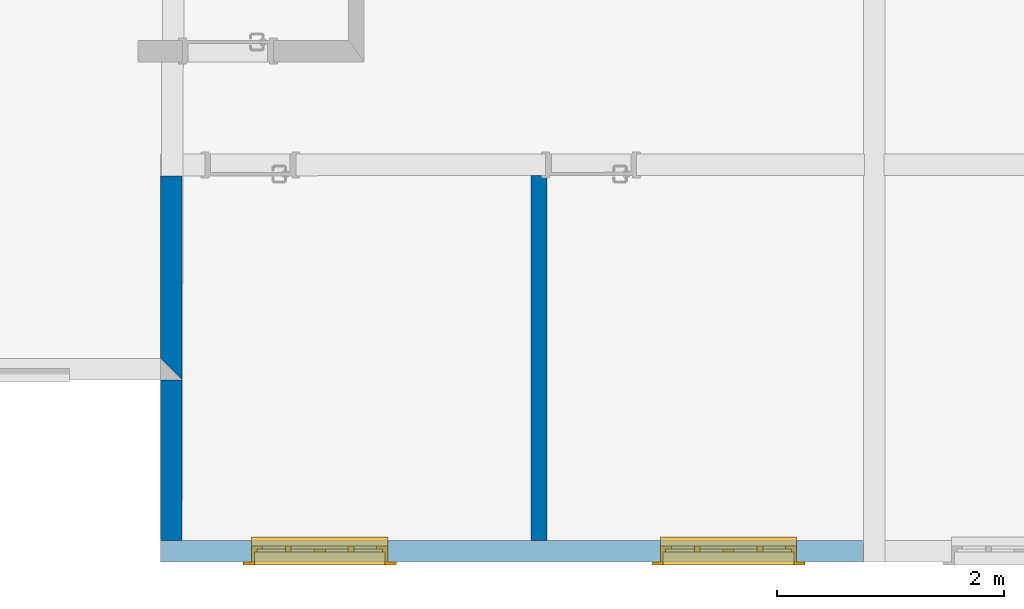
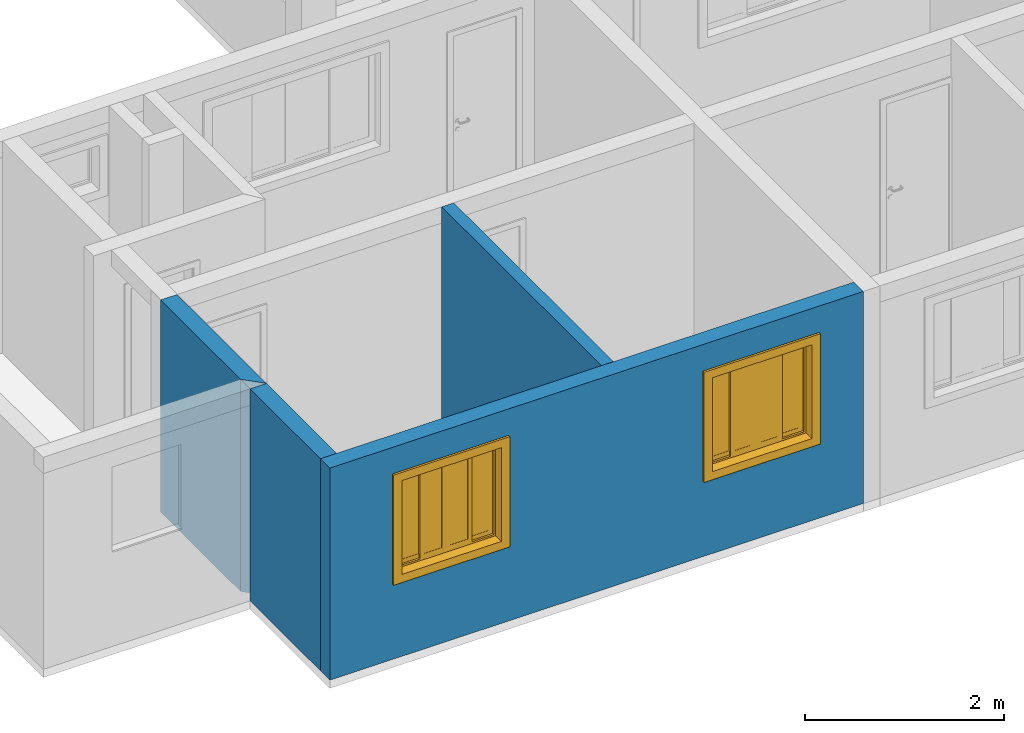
# One storey, part 4 of 43: 4 walls, 2 windows, 2 openings.
"""IFC2X3 building model written with IfcOpenShell, lengths in millimetres."""

from ifc_helpers import new_model, entity, si_unit, converted_unit, derived_unit, money_unit, direction, frame, origin_with_axes, origin_2d_with_axis, place, context, subcontext, project, spatial, polyline, rectangle, outline, extrude, open_shell, faceted_brep, surface_model, source, transform, mapped, material, layer, layer_set, layer_usage, type_object, element, fill, save


model = new_model("IFC2X3")

# Units and contexts
model_context = context("Model", 3, precision=0.01, world=origin_with_axes(), true_north=direction((0.0, 1.0)))
body_context = subcontext(model_context, "Body", "Model", "MODEL_VIEW")
ifc_project = project(units=[si_unit("LENGTHUNIT", "METRE", prefix="MILLI"), si_unit("AREAUNIT", "SQUARE_METRE"), si_unit("VOLUMEUNIT", "CUBIC_METRE"), converted_unit("PLANEANGLEUNIT", "DEGREE", entity("IfcPlaneAngleMeasure", 0.0174532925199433), si_unit("PLANEANGLEUNIT", "RADIAN"), dimensions=[0, 0, 0, 0, 0, 0, 0]), money_unit("USD"), converted_unit("TIMEUNIT", "Year", entity("IfcTimeMeasure", 31557600.0), si_unit("TIMEUNIT", "SECOND"), dimensions=[0, 0, 1, 0, 0, 0, 0]), si_unit("MASSUNIT", "GRAM", prefix="KILO"), si_unit("THERMODYNAMICTEMPERATUREUNIT", "DEGREE_CELSIUS"), si_unit("LUMINOUSINTENSITYUNIT", "LUMEN"), si_unit("ENERGYUNIT", "JOULE", prefix="MEGA"), derived_unit("THERMALCONDUCTANCEUNIT", [(si_unit("POWERUNIT", "WATT"), 1), (si_unit("LENGTHUNIT", "METRE"), -1), (si_unit("THERMODYNAMICTEMPERATUREUNIT", "KELVIN"), -1)]), derived_unit("SPECIFICHEATCAPACITYUNIT", [(si_unit("ENERGYUNIT", "JOULE"), 1), (si_unit("MASSUNIT", "GRAM", prefix="KILO"), -1), (si_unit("THERMODYNAMICTEMPERATUREUNIT", "KELVIN"), -1)]), derived_unit("MASSDENSITYUNIT", [(si_unit("MASSUNIT", "GRAM", prefix="KILO"), 1), (si_unit("VOLUMEUNIT", "CUBIC_METRE"), -1)])], contexts=[model_context])

# Site, building, storey
site_placement = place(None, origin_with_axes())
site = spatial("IfcSite", under=ifc_project, at=site_placement, Name="Local", CompositionType="ELEMENT")
building_placement = place(site_placement, origin_with_axes())
building = spatial("IfcBuilding", under=site, at=building_placement, Name="Construção", CompositionType="ELEMENT")
storey_placement = place(building_placement, origin_with_axes())
storey = spatial("IfcBuildingStorey", under=building, at=storey_placement, Name="Pavimento Tipo", CompositionType="ELEMENT", Elevation=0.0)

# Wall, openings, windows
ifc_material_1 = material(Name="Concreto - Estrutural")
ifc_layer_1 = layer(ifc_material_1, 190.0, ventilated="UNKNOWN")
ifc_layer_set_1 = layer_set([ifc_layer_1], Name="Concreto - Estrutural 190")
ifc_layer_usage_1 = layer_usage(ifc_layer_set_1, "AXIS2", "NEGATIVE", 0.0)
wall_type_1 = type_object("IfcWallType", Name="Concreto - Estrutural 190", PredefinedType="NOTDEFINED")
wall_1_placement = place(storey_placement, frame((57514.86531294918, -8170.441911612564, 0.0), z_axis=(0.0, 0.0, 1.0), x_axis=(1.0, 0.0, 0.0)))
wall_1 = element("IfcWallStandardCase", 1, at=wall_1_placement, inside=storey, type_object=wall_type_1, material=ifc_layer_usage_1, Name="Apartamento 3 - Parede-005", context=body_context, shape_type="SweptSolid", body=[
    extrude(outline(polyline([(0.0, -189.9999999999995), (6187.334418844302, -189.9999999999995), (6187.334418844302, 0.0), (0.0, 0.0), (0.0, -189.9999999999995)])), origin_with_axes(), (0.0, 0.0, 1.0), 2600.0),
])
opening_1_placement = place(wall_1_placement, frame((4999.999999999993, 0.0, 1000.0), z_axis=(0.0, 0.0, 1.0), x_axis=(1.0, 0.0, 0.0)))
opening_1 = element("IfcOpeningElement", 2, at=opening_1_placement, cuts=wall_1, Name="Apartamento 3 - J06", context=body_context, shape_type="SweptSolid", body=[
    extrude(rectangle(XDim=1200.000000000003, YDim=1200.0, at=origin_2d_with_axis()), frame((0.0, -49.99999999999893, 600.0000000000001), z_axis=(0.0, 1.0, 0.0), x_axis=(-1.0, 0.0, 0.0)), (0.0, 0.0, -1.0), 330.0),
    extrude(rectangle(XDim=1200.000000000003, YDim=1200.0, at=origin_2d_with_axis()), frame((0.0, -50.00000000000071, 600.0000000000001), z_axis=(0.0, -1.0, 0.0), x_axis=(-1.0, 0.0, 0.0)), (0.0, 0.0, -1.0), 240.0),
    extrude(rectangle(XDim=1349.999999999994, YDim=1350.0, at=origin_2d_with_axis()), frame((0.0, -189.9999999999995, 600.0000000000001), z_axis=(0.0, 1.0, 0.0), x_axis=(-1.0, 0.0, 0.0)), (0.0, 0.0, -1.0), 240.0),
])
opening_2_placement = place(wall_1_placement, frame((1399.999999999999, 0.0, 1000.0), z_axis=(0.0, 0.0, 1.0), x_axis=(1.0, 0.0, 0.0)))
opening_2 = element("IfcOpeningElement", 3, at=opening_2_placement, cuts=wall_1, Name="Apartamento 3 - J05", context=body_context, shape_type="SweptSolid", body=[
    extrude(rectangle(XDim=1200.000000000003, YDim=1200.0, at=origin_2d_with_axis()), frame((0.0, -49.99999999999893, 600.0000000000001), z_axis=(0.0, 1.0, 0.0), x_axis=(-1.0, 0.0, 0.0)), (0.0, 0.0, -1.0), 330.0),
    extrude(rectangle(XDim=1200.000000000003, YDim=1200.0, at=origin_2d_with_axis()), frame((0.0, -50.00000000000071, 600.0000000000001), z_axis=(0.0, -1.0, 0.0), x_axis=(-1.0, 0.0, 0.0)), (0.0, 0.0, -1.0), 240.0),
    extrude(rectangle(XDim=1349.999999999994, YDim=1350.0, at=origin_2d_with_axis()), frame((0.0, -189.9999999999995, 600.0000000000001), z_axis=(0.0, 1.0, 0.0), x_axis=(-1.0, 0.0, 0.0)), (0.0, 0.0, -1.0), 240.0),
])
window_style = type_object("IfcWindowStyle", Name="Janela de Correr 4-Folhas 27", ConstructionType="NOTDEFINED", OperationType="USERDEFINED", ParameterTakesPrecedence=False, Sizeable=False)
shared_shape = source(origin_with_axes(), body_context, "Body", "SurfaceModel", [
    faceted_brep([(-600.0, -50.0, 4.999999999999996), (-600.0, -100.0, 4.999999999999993), (-600.0, -100.0, 27.37961103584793), (-600.0, -50.0, 30.0), (600.0, -50.0, 4.999999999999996), (600.0, -100.0, 4.999999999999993), (600.0, -130.0, 4.999999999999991), (-600.0, -130.0, 4.999999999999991), (-600.0, -130.0, 25.80737765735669), (600.0, -130.0, 25.80737765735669), (600.0, -100.0, 27.37961103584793), (600.0, -50.0, 30.0)], [[[0, 1, 2, 3]], [[0, 4, 5, 6, 7, 1]], [[1, 7, 8, 2]], [[3, 2, 8, 9, 10, 11]], [[4, 0, 3, 11]], [[5, 4, 11, 10]], [[6, 5, 10, 9]], [[7, 6, 9, 8]]]),
    faceted_brep([(-600.0, -50.0, 0.0), (-600.0, -100.0, 0.0), (-600.0, -100.0, 4.999999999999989), (-600.0, -50.0, 4.999999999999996), (600.0, -50.0, 0.0), (600.0, -100.0, 0.0), (600.0, -100.0, 4.999999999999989), (600.0, -50.0, 4.999999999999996)], [[[0, 1, 2, 3]], [[0, 4, 5, 1]], [[1, 5, 6, 2]], [[3, 2, 6, 7]], [[4, 0, 3, 7]], [[5, 4, 7, 6]]]),
    faceted_brep([(-600.0, 0.0, 0.0), (-600.0, 90.00000000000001, 0.0), (600.0, 90.00000000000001, 0.0), (600.0, 0.0, 0.0), (-600.0, 0.0, 1200.0), (-600.0, 90.00000000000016, 1200.0), (600.0, 90.00000000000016, 1200.0), (-575.0, 90.00000000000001, 24.99999999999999), (575.0, 90.00000000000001, 24.99999999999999), (575.0, 90.00000000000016, 1175.0), (-575.0, 90.00000000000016, 1175.0), (600.0, 0.0, 1200.0), (-575.0, 0.0, 24.99999999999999), (-575.0, 0.0, 1175.0), (575.0, 0.0, 1175.0), (575.0, 0.0, 24.99999999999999)], [[[0, 1, 2, 3]], [[4, 5, 1, 0]], [[1, 5, 6, 2], [7, 8, 9, 10]], [[3, 2, 6, 11]], [[0, 3, 11, 4], [12, 13, 14, 15]], [[11, 6, 5, 4]], [[15, 8, 7, 12]], [[14, 9, 8, 15]], [[13, 10, 9, 14]], [[12, 7, 10, 13]]]),
    faceted_brep([(-674.9999999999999, 115.0, -75.00000000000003), (-575.0, 115.0, 24.99999999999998), (-575.0, 90.00000000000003, 24.99999999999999), (-674.9999999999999, 90.00000000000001, -75.00000000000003), (-674.9999999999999, 115.0000000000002, 1275.0), (-575.0, 115.0000000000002, 1175.0), (-575.0, 90.00000000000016, 1175.0), (-674.9999999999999, 90.00000000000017, 1275.0)], [[[0, 1, 2, 3]], [[0, 4, 5, 1]], [[1, 5, 6, 2]], [[3, 2, 6, 7]], [[4, 0, 3, 7]], [[5, 4, 7, 6]]]),
    faceted_brep([(674.9999999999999, 115.0000000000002, 1275.0), (575.0, 115.0000000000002, 1175.0), (575.0, 90.00000000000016, 1175.0), (674.9999999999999, 90.00000000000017, 1275.0), (674.9999999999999, 115.0, -75.00000000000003), (575.0, 115.0, 24.99999999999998), (575.0, 90.00000000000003, 24.99999999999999), (674.9999999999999, 90.00000000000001, -75.00000000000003)], [[[0, 1, 2, 3]], [[0, 4, 5, 1]], [[1, 5, 6, 2]], [[3, 2, 6, 7]], [[4, 0, 3, 7]], [[5, 4, 7, 6]]]),
    faceted_brep([(674.9999999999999, 115.0, -75.00000000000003), (575.0, 115.0, 24.99999999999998), (575.0, 90.00000000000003, 24.99999999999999), (674.9999999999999, 90.00000000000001, -75.00000000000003), (-674.9999999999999, 115.0, -75.00000000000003), (-575.0, 115.0, 24.99999999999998), (-575.0, 90.00000000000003, 24.99999999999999), (-674.9999999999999, 90.00000000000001, -75.00000000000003)], [[[0, 1, 2, 3]], [[0, 4, 5, 1]], [[1, 5, 6, 2]], [[3, 2, 6, 7]], [[4, 0, 3, 7]], [[5, 4, 7, 6]]]),
    faceted_brep([(-674.9999999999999, 115.0000000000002, 1275.0), (-575.0, 115.0000000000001, 1175.0), (-575.0, 90.00000000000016, 1175.0), (-674.9999999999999, 90.00000000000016, 1275.0), (674.9999999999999, 115.0000000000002, 1275.0), (575.0, 115.0000000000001, 1175.0), (575.0, 90.00000000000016, 1175.0), (674.9999999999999, 90.00000000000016, 1275.0)], [[[0, 1, 2, 3]], [[0, 4, 5, 1]], [[1, 5, 6, 2]], [[3, 2, 6, 7]], [[4, 0, 3, 7]], [[5, 4, 7, 6]]]),
    faceted_brep([(-552.9999999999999, -50.00000000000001, 47.0), (-552.9999999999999, 0.0, 47.00000000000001), (-552.9999999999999, 0.0, 1153.0), (-552.9999999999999, -50.00000000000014, 1153.0), (-600.0, -50.00000000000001, 47.0), (-600.0, 0.0, 47.00000000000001), (-600.0, 0.0, 1153.0), (-600.0, -50.00000000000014, 1153.0)], [[[0, 1, 2, 3]], [[4, 5, 1, 0]], [[1, 5, 6, 2]], [[3, 2, 6, 7]], [[0, 3, 7, 4]], [[7, 6, 5, 4]]]),
    faceted_brep([(600.0, -50.00000000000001, 47.0), (600.0, 0.0, 47.00000000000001), (600.0, 0.0, 1153.0), (600.0, -50.00000000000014, 1153.0), (552.9999999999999, -50.00000000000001, 47.0), (552.9999999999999, 0.0, 47.00000000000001), (552.9999999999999, 0.0, 1153.0), (552.9999999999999, -50.00000000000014, 1153.0)], [[[0, 1, 2, 3]], [[4, 5, 1, 0]], [[1, 5, 6, 2]], [[3, 2, 6, 7]], [[0, 3, 7, 4]], [[7, 6, 5, 4]]]),
    faceted_brep([(600.0, -50.00000000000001, 47.0), (600.0, 0.0, 47.00000000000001), (552.9999999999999, 0.0, 47.00000000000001), (552.9999999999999, -50.00000000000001, 47.0), (600.0, -50.0, 0.0), (600.0, 0.0, 0.0), (-600.0, 0.0, 0.0), (-600.0, 0.0, 47.00000000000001), (-552.9999999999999, 0.0, 47.00000000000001), (-552.9999999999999, -50.00000000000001, 47.0), (-600.0, -50.00000000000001, 47.0), (-600.0, -50.0, 0.0)], [[[0, 1, 2, 3]], [[4, 5, 1, 0]], [[1, 5, 6, 7, 8, 2]], [[3, 2, 8, 9]], [[0, 3, 9, 10, 11, 4]], [[11, 6, 5, 4]], [[10, 7, 6, 11]], [[9, 8, 7, 10]]]),
    faceted_brep([(600.0, -50.00000000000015, 1200.0), (600.0, 0.0, 1200.0), (-600.0, 0.0, 1200.0), (-600.0, -50.00000000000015, 1200.0), (600.0, -50.00000000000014, 1153.0), (600.0, 0.0, 1153.0), (552.9999999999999, 0.0, 1153.0), (276.5, 0.0, 1153.0), (0.0, 0.0, 1153.0), (-276.4999999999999, 0.0, 1153.0), (-552.9999999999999, 0.0, 1153.0), (-600.0, 0.0, 1153.0), (-600.0, -50.00000000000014, 1153.0), (-552.9999999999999, -50.00000000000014, 1153.0), (-276.4999999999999, -50.00000000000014, 1153.0), (0.0, -50.00000000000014, 1153.0), (276.5, -50.00000000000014, 1153.0), (552.9999999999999, -50.00000000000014, 1153.0)], [[[0, 1, 2, 3]], [[4, 5, 1, 0]], [[1, 5, 6, 7, 8, 9, 10, 11, 2]], [[3, 2, 11, 12]], [[0, 3, 12, 13, 14, 15, 16, 17, 4]], [[17, 6, 5, 4]], [[16, 7, 6, 17]], [[15, 8, 7, 16]], [[14, 9, 8, 15]], [[13, 10, 9, 14]], [[12, 11, 10, 13]]]),
    faceted_brep([(-502.9999999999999, -50.00000000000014, 1103.0), (-502.9999999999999, -25.00000000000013, 1103.0), (-552.9999999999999, -25.00000000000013, 1103.0), (-552.9999999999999, -50.00000000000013, 1103.0), (-502.9999999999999, -50.00000000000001, 97.0), (-502.9999999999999, -25.00000000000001, 97.0), (-552.9999999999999, -25.0, 97.0), (-552.9999999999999, -50.00000000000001, 97.0)], [[[0, 1, 2, 3]], [[4, 5, 1, 0]], [[1, 5, 6, 2]], [[3, 2, 6, 7]], [[0, 3, 7, 4]], [[7, 6, 5, 4]]]),
    faceted_brep([(-301.4999999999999, -50.00000000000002, 97.0), (-301.4999999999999, -25.00000000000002, 97.0), (-251.4999999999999, -25.00000000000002, 97.0), (-251.4999999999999, -50.00000000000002, 97.0), (-301.4999999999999, -50.00000000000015, 1103.0), (-301.4999999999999, -25.00000000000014, 1103.0), (-251.4999999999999, -25.00000000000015, 1103.0), (-251.4999999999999, -50.00000000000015, 1103.0)], [[[0, 1, 2, 3]], [[4, 5, 1, 0]], [[1, 5, 6, 2]], [[3, 2, 6, 7]], [[0, 3, 7, 4]], [[7, 6, 5, 4]]]),
    faceted_brep([(-251.4999999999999, -50.00000000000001, 47.0), (-251.4999999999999, -25.00000000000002, 47.0), (-251.4999999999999, -25.00000000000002, 97.0), (-251.4999999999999, -50.00000000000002, 97.0), (-552.9999999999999, -50.0, 47.0), (-552.9999999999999, -25.0, 47.0), (-552.9999999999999, -25.0, 97.0), (-502.9999999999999, -25.00000000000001, 97.0), (-301.4999999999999, -25.00000000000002, 97.0), (-301.4999999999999, -50.00000000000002, 97.0), (-502.9999999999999, -50.00000000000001, 97.0), (-552.9999999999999, -50.00000000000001, 97.0)], [[[0, 1, 2, 3]], [[4, 5, 1, 0]], [[1, 5, 6, 7, 8, 2]], [[3, 2, 8, 9]], [[0, 3, 9, 10, 11, 4]], [[11, 6, 5, 4]], [[10, 7, 6, 11]], [[9, 8, 7, 10]]]),
    faceted_brep([(-552.9999999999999, -50.00000000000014, 1153.0), (-552.9999999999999, -25.00000000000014, 1153.0), (-552.9999999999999, -25.00000000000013, 1103.0), (-552.9999999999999, -50.00000000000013, 1103.0), (-251.4999999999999, -50.00000000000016, 1153.0), (-251.4999999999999, -25.00000000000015, 1153.0), (-251.4999999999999, -25.00000000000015, 1103.0), (-301.4999999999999, -25.00000000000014, 1103.0), (-502.9999999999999, -25.00000000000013, 1103.0), (-502.9999999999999, -50.00000000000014, 1103.0), (-301.4999999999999, -50.00000000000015, 1103.0), (-251.4999999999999, -50.00000000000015, 1103.0)], [[[0, 1, 2, 3]], [[4, 5, 1, 0]], [[1, 5, 6, 7, 8, 2]], [[3, 2, 8, 9]], [[0, 3, 9, 10, 11, 4]], [[11, 6, 5, 4]], [[10, 7, 6, 11]], [[9, 8, 7, 10]]]),
    surface_model("IfcShellBasedSurfaceModel", [(-502.9999999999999, -47.50000000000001, 97.0), (-301.4999999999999, -47.50000000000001, 97.0), (-301.4999999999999, -47.50000000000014, 1103.0), (-502.9999999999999, -47.50000000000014, 1103.0)], [open_shell([[[0, 1, 2, 3]]])]),
    surface_model("IfcShellBasedSurfaceModel", [(-502.9999999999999, -27.50000000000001, 97.0), (-502.9999999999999, -27.50000000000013, 1103.0), (-301.4999999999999, -27.50000000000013, 1103.0), (-301.4999999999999, -27.50000000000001, 97.0)], [open_shell([[[0, 1, 2, 3]]])]),
    faceted_brep([(-251.4999999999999, -25.00000000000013, 1103.0), (-251.4999999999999, 0.0, 1103.0), (-301.4999999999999, 0.0, 1103.0), (-301.4999999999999, -25.00000000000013, 1103.0), (-251.4999999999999, -25.00000000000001, 97.0), (-251.4999999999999, 0.0, 97.0), (-301.4999999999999, 0.0, 97.0), (-301.4999999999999, -25.0, 97.0)], [[[0, 1, 2, 3]], [[4, 5, 1, 0]], [[1, 5, 6, 2]], [[3, 2, 6, 7]], [[0, 3, 7, 4]], [[7, 6, 5, 4]]]),
    faceted_brep([(-49.99999999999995, -25.00000000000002, 97.0), (-49.99999999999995, 0.0, 97.0), (0.0, 0.0, 97.0), (0.0, -25.00000000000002, 97.0), (-49.99999999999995, -25.00000000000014, 1103.0), (-49.99999999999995, 0.0, 1103.0), (0.0, 0.0, 1103.0), (0.0, -25.00000000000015, 1103.0)], [[[0, 1, 2, 3]], [[4, 5, 1, 0]], [[1, 5, 6, 2]], [[3, 2, 6, 7]], [[0, 3, 7, 4]], [[7, 6, 5, 4]]]),
    faceted_brep([(0.0, -25.00000000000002, 47.0), (0.0, 0.0, 47.0), (0.0, 0.0, 97.0), (0.0, -25.00000000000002, 97.0), (-301.4999999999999, -25.0, 47.0), (-301.4999999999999, 0.0, 47.0), (-301.4999999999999, 0.0, 97.0), (-251.4999999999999, 0.0, 97.0), (-49.99999999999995, 0.0, 97.0), (-49.99999999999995, -25.00000000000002, 97.0), (-251.4999999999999, -25.00000000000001, 97.0), (-301.4999999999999, -25.0, 97.0)], [[[0, 1, 2, 3]], [[4, 5, 1, 0]], [[1, 5, 6, 7, 8, 2]], [[3, 2, 8, 9]], [[0, 3, 9, 10, 11, 4]], [[11, 6, 5, 4]], [[10, 7, 6, 11]], [[9, 8, 7, 10]]]),
    faceted_brep([(-301.4999999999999, -25.00000000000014, 1153.0), (-301.4999999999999, 0.0, 1153.0), (-301.4999999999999, 0.0, 1103.0), (-301.4999999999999, -25.00000000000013, 1103.0), (0.0, -25.00000000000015, 1153.0), (0.0, 0.0, 1153.0), (0.0, 0.0, 1103.0), (-49.99999999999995, 0.0, 1103.0), (-251.4999999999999, 0.0, 1103.0), (-251.4999999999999, -25.00000000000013, 1103.0), (-49.99999999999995, -25.00000000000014, 1103.0), (0.0, -25.00000000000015, 1103.0)], [[[0, 1, 2, 3]], [[4, 5, 1, 0]], [[1, 5, 6, 7, 8, 2]], [[3, 2, 8, 9]], [[0, 3, 9, 10, 11, 4]], [[11, 6, 5, 4]], [[10, 7, 6, 11]], [[9, 8, 7, 10]]]),
    surface_model("IfcShellBasedSurfaceModel", [(-251.4999999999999, -22.50000000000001, 97.0), (-49.99999999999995, -22.50000000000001, 97.0), (-49.99999999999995, -22.50000000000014, 1103.0), (-251.4999999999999, -22.50000000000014, 1103.0)], [open_shell([[[0, 1, 2, 3]]])]),
    surface_model("IfcShellBasedSurfaceModel", [(-251.4999999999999, -2.500000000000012, 97.0), (-251.4999999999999, -2.500000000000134, 1103.0), (-49.99999999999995, -2.500000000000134, 1103.0), (-49.99999999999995, -2.500000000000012, 97.0)], [open_shell([[[0, 1, 2, 3]]])]),
    faceted_brep([(50.00000000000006, -25.00000000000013, 1103.0), (50.00000000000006, 0.0, 1103.0), (0.0, 0.0, 1103.0), (0.0, -25.00000000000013, 1103.0), (50.00000000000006, -25.00000000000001, 97.0), (50.00000000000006, 0.0, 97.0), (0.0, 0.0, 97.0), (0.0, -25.0, 97.0)], [[[0, 1, 2, 3]], [[4, 5, 1, 0]], [[1, 5, 6, 2]], [[3, 2, 6, 7]], [[0, 3, 7, 4]], [[7, 6, 5, 4]]]),
    faceted_brep([(251.5000000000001, -25.00000000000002, 97.0), (251.5000000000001, 0.0, 97.0), (301.5000000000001, 0.0, 97.0), (301.5000000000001, -25.00000000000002, 97.0), (251.5000000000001, -25.00000000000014, 1103.0), (251.5000000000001, 0.0, 1103.0), (301.5000000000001, 0.0, 1103.0), (301.5000000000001, -25.00000000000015, 1103.0)], [[[0, 1, 2, 3]], [[4, 5, 1, 0]], [[1, 5, 6, 2]], [[3, 2, 6, 7]], [[0, 3, 7, 4]], [[7, 6, 5, 4]]]),
    faceted_brep([(301.5000000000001, -25.00000000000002, 47.0), (301.5000000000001, 0.0, 47.0), (301.5000000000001, 0.0, 97.0), (301.5000000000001, -25.00000000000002, 97.0), (0.0, -25.0, 47.0), (0.0, 0.0, 47.0), (0.0, 0.0, 97.0), (50.00000000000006, 0.0, 97.0), (251.5000000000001, 0.0, 97.0), (251.5000000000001, -25.00000000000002, 97.0), (50.00000000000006, -25.00000000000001, 97.0), (0.0, -25.0, 97.0)], [[[0, 1, 2, 3]], [[4, 5, 1, 0]], [[1, 5, 6, 7, 8, 2]], [[3, 2, 8, 9]], [[0, 3, 9, 10, 11, 4]], [[11, 6, 5, 4]], [[10, 7, 6, 11]], [[9, 8, 7, 10]]]),
    faceted_brep([(0.0, -25.00000000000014, 1153.0), (0.0, 0.0, 1153.0), (0.0, 0.0, 1103.0), (0.0, -25.00000000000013, 1103.0), (301.5000000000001, -25.00000000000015, 1153.0), (301.5000000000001, 0.0, 1153.0), (301.5000000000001, 0.0, 1103.0), (251.5000000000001, 0.0, 1103.0), (50.00000000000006, 0.0, 1103.0), (50.00000000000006, -25.00000000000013, 1103.0), (251.5000000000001, -25.00000000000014, 1103.0), (301.5000000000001, -25.00000000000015, 1103.0)], [[[0, 1, 2, 3]], [[4, 5, 1, 0]], [[1, 5, 6, 7, 8, 2]], [[3, 2, 8, 9]], [[0, 3, 9, 10, 11, 4]], [[11, 6, 5, 4]], [[10, 7, 6, 11]], [[9, 8, 7, 10]]]),
    surface_model("IfcShellBasedSurfaceModel", [(50.00000000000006, -22.50000000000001, 97.0), (251.5000000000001, -22.50000000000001, 97.0), (251.5000000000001, -22.50000000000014, 1103.0), (50.00000000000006, -22.50000000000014, 1103.0)], [open_shell([[[0, 1, 2, 3]]])]),
    surface_model("IfcShellBasedSurfaceModel", [(50.00000000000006, -2.500000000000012, 97.0), (50.00000000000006, -2.500000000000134, 1103.0), (251.5000000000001, -2.500000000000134, 1103.0), (251.5000000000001, -2.500000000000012, 97.0)], [open_shell([[[0, 1, 2, 3]]])]),
    faceted_brep([(301.5000000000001, -50.00000000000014, 1103.0), (301.5000000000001, -25.00000000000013, 1103.0), (251.5000000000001, -25.00000000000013, 1103.0), (251.5000000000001, -50.00000000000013, 1103.0), (301.5000000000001, -50.00000000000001, 97.0), (301.5000000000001, -25.00000000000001, 97.0), (251.5000000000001, -25.0, 97.0), (251.5000000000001, -50.00000000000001, 97.0)], [[[0, 1, 2, 3]], [[4, 5, 1, 0]], [[1, 5, 6, 2]], [[3, 2, 6, 7]], [[0, 3, 7, 4]], [[7, 6, 5, 4]]]),
    faceted_brep([(503.0, -50.00000000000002, 97.0), (503.0, -25.00000000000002, 97.0), (553.0, -25.00000000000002, 97.0), (553.0, -50.00000000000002, 97.0), (503.0, -50.00000000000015, 1103.0), (503.0, -25.00000000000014, 1103.0), (553.0, -25.00000000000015, 1103.0), (553.0, -50.00000000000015, 1103.0)], [[[0, 1, 2, 3]], [[4, 5, 1, 0]], [[1, 5, 6, 2]], [[3, 2, 6, 7]], [[0, 3, 7, 4]], [[7, 6, 5, 4]]]),
    faceted_brep([(553.0, -50.00000000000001, 47.0), (553.0, -25.00000000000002, 47.0), (553.0, -25.00000000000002, 97.0), (553.0, -50.00000000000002, 97.0), (251.5000000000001, -50.0, 47.0), (251.5000000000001, -25.0, 47.0), (251.5000000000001, -25.0, 97.0), (301.5000000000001, -25.00000000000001, 97.0), (503.0, -25.00000000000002, 97.0), (503.0, -50.00000000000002, 97.0), (301.5000000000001, -50.00000000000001, 97.0), (251.5000000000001, -50.00000000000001, 97.0)], [[[0, 1, 2, 3]], [[4, 5, 1, 0]], [[1, 5, 6, 7, 8, 2]], [[3, 2, 8, 9]], [[0, 3, 9, 10, 11, 4]], [[11, 6, 5, 4]], [[10, 7, 6, 11]], [[9, 8, 7, 10]]]),
    faceted_brep([(251.5000000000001, -50.00000000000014, 1153.0), (251.5000000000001, -25.00000000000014, 1153.0), (251.5000000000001, -25.00000000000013, 1103.0), (251.5000000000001, -50.00000000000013, 1103.0), (553.0, -50.00000000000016, 1153.0), (553.0, -25.00000000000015, 1153.0), (553.0, -25.00000000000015, 1103.0), (503.0, -25.00000000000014, 1103.0), (301.5000000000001, -25.00000000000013, 1103.0), (301.5000000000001, -50.00000000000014, 1103.0), (503.0, -50.00000000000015, 1103.0), (553.0, -50.00000000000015, 1103.0)], [[[0, 1, 2, 3]], [[4, 5, 1, 0]], [[1, 5, 6, 7, 8, 2]], [[3, 2, 8, 9]], [[0, 3, 9, 10, 11, 4]], [[11, 6, 5, 4]], [[10, 7, 6, 11]], [[9, 8, 7, 10]]]),
    surface_model("IfcShellBasedSurfaceModel", [(301.5, -47.50000000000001, 97.0), (503.0, -47.50000000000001, 97.0), (503.0, -47.50000000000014, 1103.0), (301.5, -47.50000000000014, 1103.0)], [open_shell([[[0, 1, 2, 3]]])]),
    surface_model("IfcShellBasedSurfaceModel", [(301.5, -27.50000000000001, 97.0), (301.5, -27.50000000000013, 1103.0), (503.0, -27.50000000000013, 1103.0), (503.0, -27.50000000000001, 97.0)], [open_shell([[[0, 1, 2, 3]]])]),
])
window_1_placement = place(opening_2_placement, frame((600.0000000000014, 0.0, 0.0), z_axis=(0.0, 0.0, 1.0), x_axis=(-1.0, 0.0, 0.0)))
window_1 = element("IfcWindow", 4, at=window_1_placement, inside=storey, type_object=window_style, Name="Apartamento 3 - J05", ObjectType="WINDOW", OverallHeight=1200.0, OverallWidth=1200.0, context=body_context, shape_type="MappedRepresentation", body=[
    mapped(shared_shape, transform((600.0000000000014, 99.99999999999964, 0.0))),
])
fill(opening_2, window_1)
window_2_placement = place(opening_1_placement, frame((600.0000000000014, 0.0, 0.0), z_axis=(0.0, 0.0, 1.0), x_axis=(-1.0, 0.0, 0.0)))
window_2 = element("IfcWindow", 5, at=window_2_placement, inside=storey, type_object=window_style, Name="Apartamento 3 - J06", ObjectType="WINDOW", OverallHeight=1200.0, OverallWidth=1200.0, context=body_context, shape_type="MappedRepresentation", body=[
    mapped(shared_shape, transform((600.0000000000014, 99.99999999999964, 0.0))),
])
fill(opening_1, window_2)

# Walls
ifc_layer_usage_2 = layer_usage(ifc_layer_set_1, "AXIS2", "NEGATIVE", 190.0)
wall_2_placement = place(storey_placement, frame((57514.93001415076, -4770.441890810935, 0.0), z_axis=(0.0, 0.0, 1.0), x_axis=(-1.902976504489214e-05, -0.9999999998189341, 0.0)))
element("IfcWallStandardCase", 6, at=wall_2_placement, inside=storey, type_object=wall_type_1, material=ifc_layer_usage_2, Name="Apartamento 3 - Parede-078", context=body_context, shape_type="SweptSolid", body=[
    extrude(outline(polyline([(190.0000110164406, 0.0), (1797.138596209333, 0.0), (1987.138596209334, 190.0000000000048), (189.9353097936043, 189.9999999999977), (190.0000110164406, 0.0)])), origin_with_axes(), (0.0, 0.0, 1.0), 2600.0),
])
ifc_layer_usage_3 = layer_usage(ifc_layer_set_1, "AXIS2", "NEGATIVE", 0.0)
wall_3_placement = place(storey_placement, frame((57704.89219933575, -6757.584102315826, 0.0), z_axis=(0.0, 0.0, 1.0), x_axis=(-1.902976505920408e-05, -0.9999999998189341, 0.0)))
element("IfcWallStandardCase", 7, at=wall_3_placement, inside=storey, type_object=wall_type_1, material=ifc_layer_usage_3, Name="Apartamento 3 - Parede-004", context=body_context, shape_type="SweptSolid", body=[
    extrude(outline(polyline([(0.0, -190.0000000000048), (1412.861425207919, -190.0000000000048), (1412.857809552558, 0.0), (0.0, 0.0), (0.0, -190.0000000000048)])), origin_with_axes(), (0.0, 0.0, 1.0), 2600.0),
])
ifc_material_2 = material(Name="Concreto")
ifc_layer_2 = layer(ifc_material_2, 140.0, ventilated="UNKNOWN")
ifc_layer_set_2 = layer_set([ifc_layer_2], Name="Concreto 140")
ifc_layer_usage_4 = layer_usage(ifc_layer_set_2, "AXIS2", "NEGATIVE", 0.0)
wall_type_2 = type_object("IfcWallType", Name="Concreto 140", PredefinedType="NOTDEFINED")
wall_4_placement = place(storey_placement, frame((60914.86531294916, -4769.348801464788, 0.0), z_axis=(0.0, 0.0, 1.0), x_axis=(0.0, -1.0, 0.0)))
element("IfcWallStandardCase", 8, at=wall_4_placement, inside=storey, type_object=wall_type_2, material=ifc_layer_usage_4, Name="Apartamento 3 - Parede-060", context=body_context, shape_type="SweptSolid", body=[
    extrude(outline(polyline([(190.0450202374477, -140.0000000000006), (3401.093110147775, -140.0000000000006), (3401.093110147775, 0.0), (190.000009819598, 0.0), (190.0450202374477, -140.0000000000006)])), origin_with_axes(), (0.0, 0.0, 1.0), 2600.0),
])

save(model, "model.ifc")
